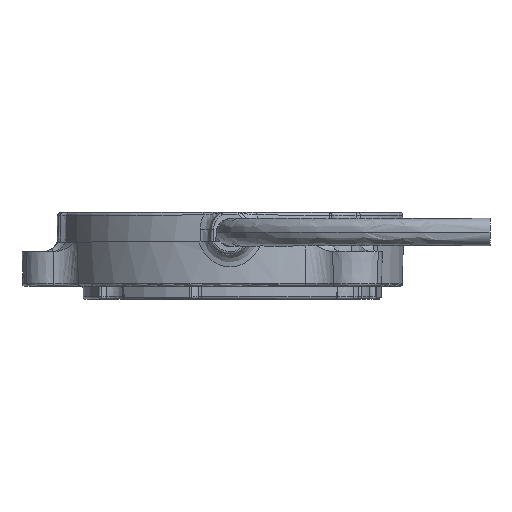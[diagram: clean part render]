
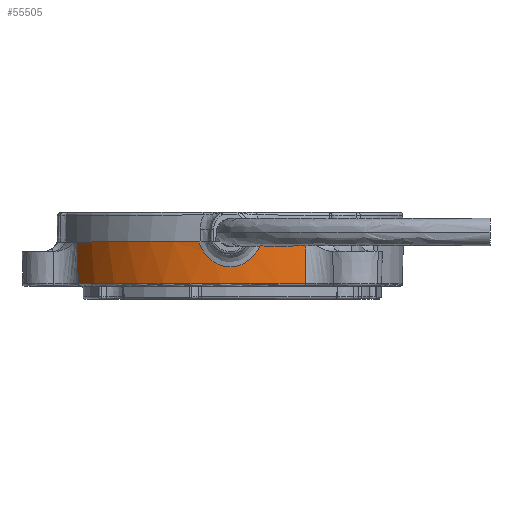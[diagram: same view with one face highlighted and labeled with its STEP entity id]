
A CAD part, top view. The second image highlights one B-rep face of the part: STEP entity #55505.
In plain terms, the highlighted conical face has half-angle 1 degrees and reference radius 20 mm.
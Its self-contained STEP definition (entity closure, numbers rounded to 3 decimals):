
#1527 = EDGE_CURVE ( 'NONE', #20382, #44202, #50034, .T. ) ;
#2173 = CARTESIAN_POINT ( 'NONE',  ( -1.4, 2.517, 19.907 ) ) ;
#2458 = CARTESIAN_POINT ( 'NONE',  ( -0.199, 2.221, 19.95 ) ) ;
#3034 = CARTESIAN_POINT ( 'NONE',  ( -0.811, 2.315, 19.936 ) ) ;
#3468 = CONICAL_SURFACE ( 'NONE', #36405, 20., 0.017 ) ;
#5133 = CARTESIAN_POINT ( 'NONE',  ( 3.199, 4.173, 19.726 ) ) ;
#5385 = EDGE_CURVE ( 'NONE', #35383, #12779, #28360, .T. ) ;
#5398 = CARTESIAN_POINT ( 'NONE',  ( -3.634, 5.1, 19.667 ) ) ;
#6292 = DIRECTION ( 'NONE',  ( -0.008, -1., -0.016 ) ) ;
#6304 = CARTESIAN_POINT ( 'NONE',  ( -1.943, 2.813, 19.866 ) ) ;
#6612 = CARTESIAN_POINT ( 'NONE',  ( -2.978, 3.816, 19.755 ) ) ;
#7470 = CARTESIAN_POINT ( 'NONE',  ( 1.411, 2.521, 19.906 ) ) ;
#8638 = ORIENTED_EDGE ( 'NONE', *, *, #1527, .T. ) ;
#9571 = CARTESIAN_POINT ( 'NONE',  ( 3.634, 5.1, 19.667 ) ) ;
#11034 = CARTESIAN_POINT ( 'NONE',  ( 2.863, 3.661, 19.769 ) ) ;
#11592 = B_SPLINE_CURVE_WITH_KNOTS ( 'NONE', 3,
 ( #9571, #18674, #55572, #45519, #28726, #5133, #38415, #24855, #11034, #24579, #43438, #29021, #20149, #29592, #7470, #47872, #42576, #42866, #29874, #2458, #51749, #3034, #34006, #2173, #20440, #6304, #38996, #55863, #47015, #25146, #6612, #38118, #43154, #16028, #33719, #30163, #15447, #56440 ),
 .UNSPECIFIED., .F., .F.,
 ( 4, 2, 2, 2, 2, 2, 2, 2, 2, 2, 2, 2, 2, 2, 2, 2, 2, 2, 4 ),
 ( 0., 0.001, 0.001, 0.001, 0.002, 0.002, 0.003, 0.004, 0.004, 0.005, 0.006, 0.006, 0.007, 0.007, 0.008, 0.009, 0.009, 0.009, 0.01 ),
 .UNSPECIFIED. ) ;
#11745 = AXIS2_PLACEMENT_3D ( 'NONE', #42409, #32962, #24697 ) ;
#12779 = VERTEX_POINT ( 'NONE', #57706 ) ;
#14101 = ORIENTED_EDGE ( 'NONE', *, *, #31788, .T. ) ;
#14813 = CARTESIAN_POINT ( 'NONE',  ( -17.63, 5.1, 9.444 ) ) ;
#15447 = CARTESIAN_POINT ( 'NONE',  ( -3.549, 4.912, 19.679 ) ) ;
#15603 = ORIENTED_EDGE ( 'NONE', *, *, #56900, .T. ) ;
#16028 = CARTESIAN_POINT ( 'NONE',  ( -3.292, 4.349, 19.714 ) ) ;
#18606 = DIRECTION ( 'NONE',  ( 0., 1., 0. ) ) ;
#18674 = CARTESIAN_POINT ( 'NONE',  ( 3.549, 4.913, 19.679 ) ) ;
#18699 = ORIENTED_EDGE ( 'NONE', *, *, #52339, .F. ) ;
#20149 = CARTESIAN_POINT ( 'NONE',  ( 1.957, 2.822, 19.865 ) ) ;
#20382 = VERTEX_POINT ( 'NONE', #5398 ) ;
#20440 = CARTESIAN_POINT ( 'NONE',  ( -1.586, 2.605, 19.894 ) ) ;
#22175 = CARTESIAN_POINT ( 'NONE',  ( 0., 0.295, 0. ) ) ;
#24569 = AXIS2_PLACEMENT_3D ( 'NONE', #57604, #53476, #53182 ) ;
#24579 = CARTESIAN_POINT ( 'NONE',  ( 2.589, 3.348, 19.801 ) ) ;
#24697 = DIRECTION ( 'NONE',  ( 0., 0., -1. ) ) ;
#24855 = CARTESIAN_POINT ( 'NONE',  ( 2.985, 3.825, 19.754 ) ) ;
#25146 = CARTESIAN_POINT ( 'NONE',  ( -2.853, 3.648, 19.77 ) ) ;
#28059 = ORIENTED_EDGE ( 'NONE', *, *, #55326, .T. ) ;
#28360 = CIRCLE ( 'NONE', #51923, 19.916 ) ;
#28726 = CARTESIAN_POINT ( 'NONE',  ( 3.294, 4.354, 19.714 ) ) ;
#29021 = CARTESIAN_POINT ( 'NONE',  ( 2.125, 2.941, 19.85 ) ) ;
#29592 = CARTESIAN_POINT ( 'NONE',  ( 1.599, 2.612, 19.893 ) ) ;
#29874 = CARTESIAN_POINT ( 'NONE',  ( 0.214, 2.222, 19.95 ) ) ;
#30163 = CARTESIAN_POINT ( 'NONE',  ( -3.463, 4.724, 19.691 ) ) ;
#31049 = CARTESIAN_POINT ( 'NONE',  ( -17.63, 5.1, 9.444 ) ) ;
#31698 = VECTOR ( 'NONE', #32799, 1000. ) ;
#31788 = EDGE_CURVE ( 'NONE', #49424, #40215, #45645, .T. ) ;
#32799 = DIRECTION ( 'NONE',  ( 0.015, -1., -0.008 ) ) ;
#32962 = DIRECTION ( 'NONE',  ( 0., -1., 0. ) ) ;
#33719 = CARTESIAN_POINT ( 'NONE',  ( -3.335, 4.443, 19.708 ) ) ;
#34006 = CARTESIAN_POINT ( 'NONE',  ( -1.014, 2.372, 19.928 ) ) ;
#35383 = VERTEX_POINT ( 'NONE', #46064 ) ;
#36405 = AXIS2_PLACEMENT_3D ( 'NONE', #51712, #47827, #42537 ) ;
#38106 = LINE ( 'NONE', #51450, #55000 ) ;
#38118 = CARTESIAN_POINT ( 'NONE',  ( -3.144, 4.078, 19.733 ) ) ;
#38415 = CARTESIAN_POINT ( 'NONE',  ( 3.148, 4.085, 19.733 ) ) ;
#38996 = CARTESIAN_POINT ( 'NONE',  ( -2.115, 2.933, 19.85 ) ) ;
#40215 = VERTEX_POINT ( 'NONE', #50547 ) ;
#42409 = CARTESIAN_POINT ( 'NONE',  ( 0., 5.1, 0. ) ) ;
#42537 = DIRECTION ( 'NONE',  ( 0., 0., -1. ) ) ;
#42576 = CARTESIAN_POINT ( 'NONE',  ( 0.83, 2.319, 19.935 ) ) ;
#42866 = CARTESIAN_POINT ( 'NONE',  ( 0.424, 2.242, 19.947 ) ) ;
#43154 = CARTESIAN_POINT ( 'NONE',  ( -3.196, 4.167, 19.727 ) ) ;
#43368 = EDGE_LOOP ( 'NONE', ( #14101, #15603, #8638, #28059, #51248, #18699 ) ) ;
#43438 = CARTESIAN_POINT ( 'NONE',  ( 2.441, 3.203, 19.818 ) ) ;
#44202 = VERTEX_POINT ( 'NONE', #31049 ) ;
#44841 = CARTESIAN_POINT ( 'NONE',  ( 8.712, 5.1, 18.003 ) ) ;
#45519 = CARTESIAN_POINT ( 'NONE',  ( 3.337, 4.447, 19.708 ) ) ;
#45645 = CIRCLE ( 'NONE', #11745, 20. ) ;
#46064 = CARTESIAN_POINT ( 'NONE',  ( -17.556, 0.295, 9.404 ) ) ;
#47015 = CARTESIAN_POINT ( 'NONE',  ( -2.58, 3.339, 19.802 ) ) ;
#47827 = DIRECTION ( 'NONE',  ( 0., 1., 0. ) ) ;
#47872 = CARTESIAN_POINT ( 'NONE',  ( 1.027, 2.376, 19.927 ) ) ;
#49424 = VERTEX_POINT ( 'NONE', #44841 ) ;
#50034 = CIRCLE ( 'NONE', #24569, 20. ) ;
#50547 = CARTESIAN_POINT ( 'NONE',  ( 3.634, 5.1, 19.667 ) ) ;
#51248 = ORIENTED_EDGE ( 'NONE', *, *, #5385, .T. ) ;
#51450 = CARTESIAN_POINT ( 'NONE',  ( 8.712, 5.1, 18.003 ) ) ;
#51712 = CARTESIAN_POINT ( 'NONE',  ( 0., 5.1, 0. ) ) ;
#51749 = CARTESIAN_POINT ( 'NONE',  ( -0.404, 2.24, 19.947 ) ) ;
#51923 = AXIS2_PLACEMENT_3D ( 'NONE', #22175, #18606, #54330 ) ;
#52339 = EDGE_CURVE ( 'NONE', #49424, #12779, #38106, .T. ) ;
#53182 = DIRECTION ( 'NONE',  ( 0., 0., 1. ) ) ;
#53476 = DIRECTION ( 'NONE',  ( 0., -1., 0. ) ) ;
#54330 = DIRECTION ( 'NONE',  ( 0., 0., -1. ) ) ;
#54648 = LINE ( 'NONE', #14813, #31698 ) ;
#55000 = VECTOR ( 'NONE', #6292, 1000. ) ;
#55326 = EDGE_CURVE ( 'NONE', #44202, #35383, #54648, .T. ) ;
#55505 = ADVANCED_FACE ( 'NONE', ( #56971 ), #3468, .T. ) ;
#55572 = CARTESIAN_POINT ( 'NONE',  ( 3.465, 4.727, 19.691 ) ) ;
#55863 = CARTESIAN_POINT ( 'NONE',  ( -2.432, 3.196, 19.819 ) ) ;
#56440 = CARTESIAN_POINT ( 'NONE',  ( -3.634, 5.1, 19.667 ) ) ;
#56900 = EDGE_CURVE ( 'NONE', #40215, #20382, #11592, .T. ) ;
#56971 = FACE_OUTER_BOUND ( 'NONE', #43368, .T. ) ;
#57604 = CARTESIAN_POINT ( 'NONE',  ( 0., 5.1, 0. ) ) ;
#57706 = CARTESIAN_POINT ( 'NONE',  ( 8.675, 0.295, 17.927 ) ) ;
